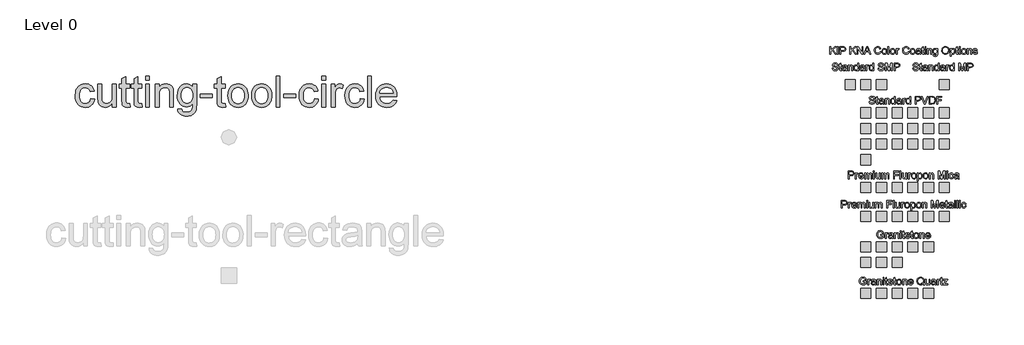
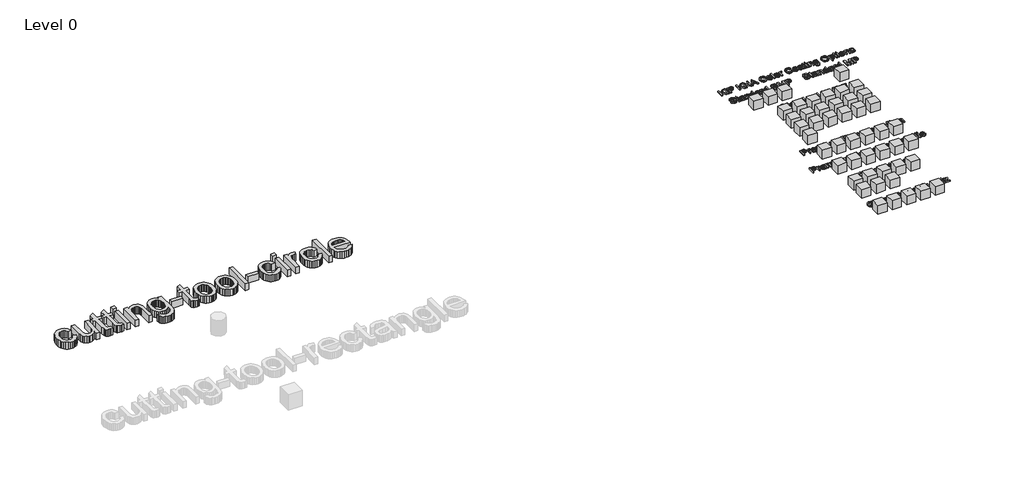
# One storey, part 4 of 4: 50 proxies.
"""IFC4 building model written with IfcOpenShell, lengths in millimetres."""

from ifc_helpers import new_model, si_unit, origin, origin_with_axes, place, context, project, spatial, polyline, outline, extrude, transform, mapped, element, save
from components import ks_color_sample_ks_color_sample_0243efec, r19_kna_color_range_kingspan_quadcore_4278cd54, r19_kna_color_range_kingspan_quadcore_c5814d20, r19_kna_color_range_kingspan_quadcore_91b79b7c

model = new_model("IFC4")

# Units and contexts
model_context = context("Model", 3, world=origin())
ifc_project = project(units=[si_unit("LENGTHUNIT", "METRE", prefix="MILLI")], contexts=[model_context])

# Site, building, storey
site = spatial("IfcSite", under=ifc_project)
building = spatial("IfcBuilding", under=site)
storey = spatial("IfcBuildingStorey", under=building, Name="Level 0", Elevation=0.0)

# Proxies
placement = place(None, origin())
element("IfcBuildingElementProxy", 1, Name="24\" Arial", ObjectType="24\" Arial", at=placement, inside=storey, context=model_context, shape_type="SweptSolid", body=[
    extrude(outline(polyline([(-2842.3369959, 13357.6936314), (-2766.1952224, 13348.1759097), (-2774.4767556, 13312.2474398), (-2787.4242032, 13280.4550891), (-2805.0375651, 13252.7988578), (-2827.3168414, 13229.2787458), (-2853.3232723, 13210.5081999), (-2882.1180983, 13197.1006671), (-2913.7013193, 13189.0561475), (-2948.0729353, 13186.3746409), (-2990.7772051, 13190.1157376), (-3029.0665162, 13201.3390276), (-3062.9408684, 13220.0445109), (-3092.4002619, 13246.2321875), (-3116.2456867, 13279.409441), (-3133.278133, 13319.0836549), (-3143.4976007, 13365.2548292), (-3146.90409, 13417.9229639), (-3141.085639, 13485.6809631), (-3133.8125753, 13516.1720627), (-3123.6302862, 13544.4045623), (-3110.4690616, 13569.8114883), (-3094.2591919, 13591.8258671), (-3075.0006769, 13610.4476985), (-3052.6935167, 13625.6769827), (-3028.3461808, 13637.5183669), (-3002.9671387, 13645.9764985), (-2976.5563905, 13651.0513774), (-2949.1139361, 13652.7430037), (-2915.3325304, 13650.4193412), (-2884.7763682, 13643.4483537), (-2857.4454496, 13631.830041), (-2833.3397746, 13615.5644034), (-2812.8683078, 13595.0232267), (-2796.4400138, 13570.578297), (-2784.0548925, 13542.2296142), (-2775.7129441, 13509.9771784), (-2851.8547176, 13500.4594567), (-2865.6665676, 13533.6785361), (-2887.1743879, 13557.4914296), (-2915.1884633, 13571.8237801), (-2948.5190785, 13576.6012302), (-2974.390737, 13574.2496838), (-2997.7249561, 13567.1950443), (-3018.5217357, 13555.437312), (-3036.7810757, 13538.9764867), (-3051.6478686, 13517.4314878), (-3062.2670063, 13490.4212346), (-3068.6384889, 13457.9457272), (-3070.7623165, 13420.0049655), (-3068.6849622, 13381.4925829), (-3062.4528993, 13348.6406422), (-3052.0661278, 13321.4491433), (-3037.5246478, 13299.9180864), (-3019.627799, 13283.5548549), (-2999.1749215, 13271.8668325), (-2976.1660152, 13264.854019), (-2950.6010801, 13262.5164145), (-2911.1731745, 13268.3534547), (-2894.1221389, 13275.649755), (-2878.8463815, 13285.8645755), (-2865.7734561, 13299.1094519), (-2855.3309167, 13315.49592), (-2847.5187633, 13335.0239798), (-2842.3369959, 13357.6936314)])), origin_with_axes(), (0.0, 0.0, 1.0), 152.4),
    extrude(outline(polyline([(-2414.0395199, 13195.8923626), (-2414.0395199, 13272.7777082), (-2441.5888627, 13234.9763663), (-2473.6739948, 13207.9754078), (-2510.2949162, 13191.7748326), (-2551.4516268, 13186.3746409), (-2588.5372806, 13190.1668582), (-2623.0576111, 13201.5435099), (-2652.0197407, 13218.6456661), (-2672.4307923, 13239.6143966), (-2686.1682851, 13265.0817379), (-2695.1097385, 13295.679726), (-2699.5711706, 13366.467781), (-2699.5711706, 13643.2252821), (-2623.4293971, 13643.2252821), (-2623.4293971, 13402.3079518), (-2622.2768604, 13354.1244857), (-2618.8192506, 13324.6790343), (-2607.7214384, 13298.7841391), (-2588.7045843, 13279.0980702), (-2563.0327608, 13266.6618284), (-2531.9700402, 13262.5164145), (-2499.1227468, 13266.7547749), (-2468.3946336, 13279.4698562), (-2443.0574175, 13299.4905325), (-2426.3828152, 13325.6456779), (-2417.1253437, 13361.4672593), (-2414.0395199, 13410.4872439), (-2414.0395199, 13643.2252821), (-2337.8977464, 13643.2252821), (-2337.8977464, 13195.8923626), (-2414.0395199, 13195.8923626)])), origin_with_axes(), (0.0, 0.0, 1.0), 152.4),
    extrude(outline(polyline([(-2071.4015391, 13259.393412), (-2061.8838174, 13193.6616466), (-2092.0356623, 13188.1963924), (-2118.8414331, 13186.3746409), (-2155.3879972, 13189.534822), (-2182.6399113, 13199.0153651), (-2201.8984263, 13213.626555), (-2214.4647932, 13232.1786766), (-2221.3800129, 13264.0407371), (-2223.6850861, 13318.5817438), (-2223.6850861, 13567.0835085), (-2280.7914162, 13567.0835085), (-2280.7914162, 13643.2252821), (-2223.6850861, 13643.2252821), (-2223.6850861, 13751.9355095), (-2147.5433126, 13796.6985443), (-2147.5433126, 13643.2252821), (-2071.4015391, 13643.2252821), (-2071.4015391, 13567.0835085), (-2147.5433126, 13567.0835085), (-2147.5433126, 13320.8124598), (-2143.5280237, 13281.5518578), (-2130.5155136, 13267.6470613), (-2119.5292372, 13263.7990762), (-2104.5648506, 13262.5164145), (-2071.4015391, 13259.393412)])), origin_with_axes(), (0.0, 0.0, 1.0), 152.4),
    extrude(outline(polyline([(-1833.4584968, 13259.393412), (-1823.9407751, 13193.6616466), (-1854.09262, 13188.1963924), (-1880.8983909, 13186.3746409), (-1917.444955, 13189.534822), (-1944.6968691, 13199.0153651), (-1963.955384, 13213.626555), (-1976.521751, 13232.1786766), (-1983.4369706, 13264.0407371), (-1985.7420438, 13318.5817438), (-1985.7420438, 13567.0835085), (-2042.848374, 13567.0835085), (-2042.848374, 13643.2252821), (-1985.7420438, 13643.2252821), (-1985.7420438, 13751.9355095), (-1909.6002703, 13796.6985443), (-1909.6002703, 13643.2252821), (-1833.4584968, 13643.2252821), (-1833.4584968, 13567.0835085), (-1909.6002703, 13567.0835085), (-1909.6002703, 13320.8124598), (-1905.5849815, 13281.5518578), (-1892.5724714, 13267.6470613), (-1881.586195, 13263.7990762), (-1866.6218083, 13262.5164145), (-1833.4584968, 13259.393412)])), origin_with_axes(), (0.0, 0.0, 1.0), 152.4),
    extrude(outline(polyline([(-1757.3167233, 13728.8847773), (-1757.3167233, 13805.0265508), (-1681.1749498, 13805.0265508), (-1681.1749498, 13728.8847773), (-1757.3167233, 13728.8847773)])), origin_with_axes(), (0.0, 0.0, 1.0), 152.4),
    extrude(outline(polyline([(-1757.3167233, 13195.8923626), (-1757.3167233, 13643.2252821), (-1681.1749498, 13643.2252821), (-1681.1749498, 13195.8923626), (-1757.3167233, 13195.8923626)])), origin_with_axes(), (0.0, 0.0, 1.0), 152.4),
    extrude(outline(polyline([(-1566.9622895, 13195.8923626), (-1566.9622895, 13643.2252821), (-1490.820516, 13643.2252821), (-1490.820516, 13580.7652335), (-1464.3679418, 13612.255508), (-1432.5988278, 13634.7485612), (-1395.513174, 13648.2443931), (-1353.1109803, 13652.7430037), (-1315.5791832, 13649.1180902), (-1281.2075672, 13638.2433496), (-1252.5428663, 13621.4758008), (-1232.1318148, 13600.1724628), (-1218.2827861, 13574.3891035), (-1209.3041541, 13544.1814907), (-1205.2888653, 13470.567862), (-1205.2888653, 13195.8923626), (-1281.4306388, 13195.8923626), (-1281.4306388, 13460.3065683), (-1283.6241762, 13499.6787061), (-1290.2047885, 13527.6741922), (-1302.3436015, 13547.7320471), (-1321.2117412, 13563.2912913), (-1345.3964207, 13573.2737455), (-1373.4848533, 13576.6012302), (-1396.6052954, 13574.7330056), (-1418.0805844, 13569.1283316), (-1437.9107204, 13559.7872082), (-1456.0957033, 13546.7096355), (-1471.2878088, 13528.4084695), (-1482.1393128, 13503.3965661), (-1488.6502152, 13471.6739254), (-1490.820516, 13433.2405473), (-1490.820516, 13195.8923626), (-1566.9622895, 13195.8923626)])), origin_with_axes(), (0.0, 0.0, 1.0), 152.4),
    extrude(outline(polyline([(-1119.6293701, 13157.8214759), (-1043.4875966, 13148.3037542), (-1035.0852329, 13124.50945), (-1018.8010059, 13108.1508658), (-986.790231, 13095.4357845), (-944.8899484, 13091.1974241), (-900.2012708, 13095.9934635), (-882.1510604, 13101.9885128), (-866.9636021, 13110.3815818), (-843.9128699, 13133.432314), (-829.7850018, 13164.2161951), (-825.6581771, 13196.970542), (-824.5799977, 13252.9986928), (-849.9172139, 13228.0146733), (-878.1915394, 13210.1689452), (-909.4029744, 13199.4615083), (-943.5515188, 13195.8923626), (-985.2984397, 13200.0470712), (-1022.0541335, 13212.511197), (-1053.8186001, 13233.2847399), (-1080.5918397, 13262.3677001), (-1101.8347625, 13297.2598165), (-1117.0082788, 13335.4608284), (-1126.1123885, 13376.9707356), (-1129.1470918, 13421.7895384), (-1123.7004268, 13483.264354), (-1107.360432, 13539.7944159), (-1095.2495029, 13565.2849937), (-1080.7033755, 13587.6990424), (-1063.7220498, 13607.0365619), (-1044.3055258, 13623.2975523), (-1022.7651742, 13636.1799373), (-999.4123659, 13645.3816409), (-974.2471007, 13650.902663), (-947.2693789, 13652.7430037), (-911.6615744, 13648.5790005), (-879.344076, 13636.0869908), (-850.3168838, 13615.2669746), (-824.5799977, 13586.1189519), (-824.5799977, 13643.2252821), (-748.4382242, 13643.2252821), (-748.4382242, 13257.0139816), (-753.6432282, 13167.8411087), (-760.1494833, 13134.6731498), (-769.2582404, 13109.1175094), (-781.1879238, 13088.5066229), (-796.1569577, 13070.1729256), (-814.1653423, 13054.1164175), (-835.2130774, 13040.3370988), (-859.0863862, 13029.2764652), (-885.5714916, 13021.3760126), (-914.6683937, 13016.635741), (-946.3770925, 13015.0556505), (-983.6811706, 13017.2817192), (-1017.2209154, 13023.9599253), (-1046.996327, 13035.0902688), (-1073.0074053, 13050.6727497), (-1094.0179618, 13070.7259572), (-1108.7918081, 13095.2684808), (-1117.3289442, 13124.3003203), (-1119.6293701, 13157.8214759)]), holes=[polyline([(-1053.0053183, 13426.9945424), (-1050.9744372, 13389.3465622), (-1044.8817941, 13357.1545417), (-1034.7273889, 13330.4184807), (-1020.5112216, 13309.1383793), (-1003.2278197, 13292.9052729), (-983.8717109, 13281.3101969), (-962.4428951, 13274.3531514), (-938.9413724, 13272.0341362), (-915.6722159, 13274.3392094), (-894.3456413, 13281.254429), (-874.9616485, 13292.7797951), (-857.5202376, 13308.9153077), (-843.1088827, 13329.9862795), (-832.8150577, 13356.3180231), (-826.6387627, 13387.9105388), (-824.5799977, 13424.7638264), (-826.6991779, 13460.0788494), (-833.0567186, 13490.7744313), (-843.6526197, 13516.8505721), (-858.4868812, 13538.3072719), (-876.3047255, 13555.0608786), (-895.8513746, 13567.0277406), (-917.1268286, 13574.2078578), (-940.1310876, 13576.6012302), (-962.7496186, 13574.2450364), (-983.6114607, 13567.176455), (-1002.716614, 13555.395486), (-1020.0650784, 13538.9021295), (-1034.4764333, 13517.7707425), (-1044.7702583, 13492.0756823), (-1050.9465533, 13461.816949), (-1053.0053183, 13426.9945424)])]), origin_with_axes(), (0.0, 0.0, 1.0), 152.4),
    extrude(outline(polyline([(-672.2964507, 13376.7290747), (-672.2964507, 13452.8708483), (-434.3534084, 13452.8708483), (-434.3534084, 13376.7290747), (-672.2964507, 13376.7290747)])), origin_with_axes(), (0.0, 0.0, 1.0), 152.4),
    extrude(outline(polyline([(-186.8926445, 13259.393412), (-177.3749228, 13193.6616466), (-207.5267677, 13188.1963924), (-234.3325386, 13186.3746409), (-270.8791027, 13189.534822), (-298.1310168, 13199.0153651), (-317.3895317, 13213.626555), (-329.9558987, 13232.1786766), (-336.8711183, 13264.0407371), (-339.1761915, 13318.5817438), (-339.1761915, 13567.0835085), (-396.2825217, 13567.0835085), (-396.2825217, 13643.2252821), (-339.1761915, 13643.2252821), (-339.1761915, 13751.9355095), (-263.034418, 13796.6985443), (-263.034418, 13643.2252821), (-186.8926445, 13643.2252821), (-186.8926445, 13567.0835085), (-263.034418, 13567.0835085), (-263.034418, 13320.8124598), (-259.0191292, 13281.5518578), (-246.0066191, 13267.6470613), (-235.0203427, 13263.7990762), (-220.055956, 13262.5164145), (-186.8926445, 13259.393412)])), origin_with_axes(), (0.0, 0.0, 1.0), 152.4),
    extrude(outline(polyline([(-129.7863144, 13419.5588223), (-125.6687844, 13477.4923763), (-113.3161944, 13527.413942), (-92.7285445, 13569.3235192), (-63.9058346, 13603.2211081), (-34.887937, 13624.8869374), (-2.8585728, 13640.3625298), (32.1822581, 13649.6478853), (70.2345555, 13652.7430037), (112.2417266, 13648.9740231), (150.2243142, 13637.6670813), (184.1823183, 13618.8221782), (214.1157389, 13592.439314), (238.5467266, 13559.4107749), (255.9974322, 13520.6288474), (266.4678555, 13476.0935315), (269.9579966, 13425.8048272), (268.4150847, 13385.0477866), (263.7863489, 13348.8823031), (256.0717894, 13317.3083767), (245.271406, 13290.3260075), (231.5199712, 13267.0196724), (214.9522574, 13246.4738484), (195.5682646, 13228.6885355), (173.3679929, 13213.6637336), (149.2158446, 13201.7247556), (123.9762223, 13193.1969141), (97.6491259, 13188.0802092), (70.2345555, 13186.3746409), (27.6139375, 13190.1296796), (-10.7218467, 13201.3947955), (-44.7727973, 13220.1699887), (-74.5389143, 13246.4552591), (-98.7096518, 13279.8044636), (-115.9744643, 13319.771459), (-126.3333519, 13366.3562452), (-129.7863144, 13419.5588223)]), holes=[polyline([(-53.6445409, 13419.7075367), (-51.4417088, 13382.7752446), (-44.8332126, 13350.797001), (-33.8190522, 13323.7728059), (-18.3992277, 13301.7026592), (0.3573762, 13284.5586771), (21.3818747, 13272.3129757), (44.6742678, 13264.9655548), (70.2345555, 13262.5164145), (95.6647182, 13264.9794967), (118.8641648, 13272.3687436), (139.8328954, 13284.6841549), (158.5709099, 13301.9257308), (173.9907344, 13324.2143017), (185.0048948, 13351.6706981), (191.613391, 13384.2949199), (193.8162231, 13422.0869672), (191.599449, 13457.8481334), (184.9491269, 13488.9898585), (173.8652567, 13515.5121425), (158.3478383, 13537.4149855), (139.5401139, 13554.5589675), (118.5853253, 13566.804669), (95.4834725, 13574.1520899), (70.2345555, 13576.6012302), (44.6742678, 13574.1613846), (21.3818747, 13566.8418476), (0.3573762, 13554.6426194), (-18.3992277, 13537.5636999), (-33.8190522, 13515.5586158), (-44.8332126, 13488.5808939), (-51.4417088, 13456.6305342), (-53.6445409, 13419.7075367)])]), origin_with_axes(), (0.0, 0.0, 1.0), 152.4),
    extrude(outline(polyline([(336.5820484, 13419.5588223), (340.6995784, 13477.4923763), (353.0521684, 13527.413942), (373.6398183, 13569.3235192), (402.4625282, 13603.2211081), (431.4804258, 13624.8869374), (463.50979, 13640.3625298), (498.5506208, 13649.6478853), (536.6029183, 13652.7430037), (578.6100894, 13648.9740231), (616.592677, 13637.6670813), (650.5506811, 13618.8221782), (680.4841017, 13592.439314), (704.9150894, 13559.4107749), (722.365795, 13520.6288474), (732.8362183, 13476.0935315), (736.3263594, 13425.8048272), (734.7834475, 13385.0477866), (730.1547117, 13348.8823031), (722.4401522, 13317.3083767), (711.6397688, 13290.3260075), (697.8883339, 13267.0196724), (681.3206202, 13246.4738484), (661.9366274, 13228.6885355), (639.7363557, 13213.6637336), (615.5842074, 13201.7247556), (590.3445851, 13193.1969141), (564.0174887, 13188.0802092), (536.6029183, 13186.3746409), (493.9823003, 13190.1296796), (455.646516, 13201.3947955), (421.5955654, 13220.1699887), (391.8294485, 13246.4552591), (367.658711, 13279.8044636), (350.3938985, 13319.771459), (340.0350109, 13366.3562452), (336.5820484, 13419.5588223)]), holes=[polyline([(412.7238219, 13419.7075367), (414.926654, 13382.7752446), (421.5351502, 13350.797001), (432.5493106, 13323.7728059), (447.9691351, 13301.7026592), (466.7257389, 13284.5586771), (487.7502374, 13272.3129757), (511.0426306, 13264.9655548), (536.6029183, 13262.5164145), (562.0330809, 13264.9794967), (585.2325276, 13272.3687436), (606.2012582, 13284.6841549), (624.9392727, 13301.9257308), (640.3590972, 13324.2143017), (651.3732576, 13351.6706981), (657.9817538, 13384.2949199), (660.1845859, 13422.0869672), (657.9678118, 13457.8481334), (651.3174897, 13488.9898585), (640.2336195, 13515.5121425), (624.7162011, 13537.4149855), (605.9084767, 13554.5589675), (584.9536881, 13566.804669), (561.8518353, 13574.1520899), (536.6029183, 13576.6012302), (511.0426306, 13574.1613846), (487.7502374, 13566.8418476), (466.7257389, 13554.6426194), (447.9691351, 13537.5636999), (432.5493106, 13515.5586158), (421.5351502, 13488.5808939), (414.926654, 13456.6305342), (412.7238219, 13419.7075367)])]), origin_with_axes(), (0.0, 0.0, 1.0), 152.4),
    extrude(outline(polyline([(821.9858546, 13195.8923626), (821.9858546, 13805.0265508), (898.1276281, 13805.0265508), (898.1276281, 13195.8923626), (821.9858546, 13195.8923626)])), origin_with_axes(), (0.0, 0.0, 1.0), 152.4),
    extrude(outline(polyline([(974.2694016, 13376.7290747), (974.2694016, 13452.8708483), (1212.2124439, 13452.8708483), (1212.2124439, 13376.7290747), (974.2694016, 13376.7290747)])), origin_with_axes(), (0.0, 0.0, 1.0), 152.4),
    extrude(outline(polyline([(1583.4035898, 13357.6936314), (1659.5453633, 13348.1759097), (1651.2638301, 13312.2474398), (1638.3163825, 13280.4550891), (1620.7030206, 13252.7988578), (1598.4237443, 13229.2787458), (1572.4173134, 13210.5081999), (1543.6224874, 13197.1006671), (1512.0392664, 13189.0561475), (1477.6676504, 13186.3746409), (1434.9633805, 13190.1157376), (1396.6740695, 13201.3390276), (1362.7997173, 13220.0445109), (1333.3403238, 13246.2321875), (1309.494899, 13279.409441), (1292.4624527, 13319.0836549), (1282.242985, 13365.2548292), (1278.8364957, 13417.9229639), (1284.6549466, 13485.6809631), (1291.9280103, 13516.1720627), (1302.1102995, 13544.4045623), (1315.271524, 13569.8114883), (1331.4813938, 13591.8258671), (1350.7399088, 13610.4476985), (1373.047069, 13625.6769827), (1397.3944049, 13637.5183669), (1422.773447, 13645.9764985), (1449.1841952, 13651.0513774), (1476.6266496, 13652.7430037), (1510.4080553, 13650.4193412), (1540.9642175, 13643.4483537), (1568.295136, 13631.830041), (1592.400811, 13615.5644034), (1612.8722779, 13595.0232267), (1629.3005719, 13570.578297), (1641.6856931, 13542.2296142), (1650.0276416, 13509.9771784), (1573.8858681, 13500.4594567), (1560.074018, 13533.6785361), (1538.5661977, 13557.4914296), (1510.5521224, 13571.8237801), (1477.2215072, 13576.6012302), (1451.3498486, 13574.2496838), (1428.0156296, 13567.1950443), (1407.21885, 13555.437312), (1388.9595099, 13538.9764867), (1374.0927171, 13517.4314878), (1363.4735794, 13490.4212346), (1357.1020968, 13457.9457272), (1354.9782692, 13420.0049655), (1357.0556235, 13381.4925829), (1363.2876864, 13348.6406422), (1373.6744579, 13321.4491433), (1388.2159379, 13299.9180864), (1406.1127867, 13283.5548549), (1426.5656642, 13271.8668325), (1449.5745705, 13264.854019), (1475.1395055, 13262.5164145), (1514.5674112, 13268.3534547), (1531.6184468, 13275.649755), (1546.8942042, 13285.8645755), (1559.9671296, 13299.1094519), (1570.4096689, 13315.49592), (1578.2218223, 13335.0239798), (1583.4035898, 13357.6936314)])), origin_with_axes(), (0.0, 0.0, 1.0), 152.4),
    extrude(outline(polyline([(1726.1694151, 13728.8847773), (1726.1694151, 13805.0265508), (1802.3111886, 13805.0265508), (1802.3111886, 13728.8847773), (1726.1694151, 13728.8847773)])), origin_with_axes(), (0.0, 0.0, 1.0), 152.4),
    extrude(outline(polyline([(1726.1694151, 13195.8923626), (1726.1694151, 13643.2252821), (1802.3111886, 13643.2252821), (1802.3111886, 13195.8923626), (1726.1694151, 13195.8923626)])), origin_with_axes(), (0.0, 0.0, 1.0), 152.4),
    extrude(outline(polyline([(1916.5238489, 13195.8923626), (1916.5238489, 13643.2252821), (1983.1479007, 13643.2252821), (1983.1479007, 13577.0473734), (2007.7601342, 13615.415689), (2030.4390804, 13638.020278), (2053.1923838, 13649.0623223), (2078.0276888, 13652.7430037), (2115.9498612, 13646.8687849), (2154.4668911, 13629.2461283), (2129.0367285, 13560.9862181), (2102.2681362, 13572.6974772), (2075.499544, 13576.6012302), (2052.7648299, 13572.8461916), (2032.4467248, 13561.5810757), (2016.0323727, 13543.6609903), (2005.0089177, 13519.9410433), (1995.7514462, 13477.4087245), (1992.6656224, 13431.0098313), (1992.6656224, 13195.8923626), (1916.5238489, 13195.8923626)])), origin_with_axes(), (0.0, 0.0, 1.0), 152.4),
    extrude(outline(polyline([(2487.5871503, 13357.6936314), (2563.7289238, 13348.1759097), (2555.4473906, 13312.2474398), (2542.499943, 13280.4550891), (2524.8865811, 13252.7988578), (2502.6073048, 13229.2787458), (2476.6008739, 13210.5081999), (2447.8060479, 13197.1006671), (2416.2228269, 13189.0561475), (2381.8512109, 13186.3746409), (2339.1469411, 13190.1157376), (2300.85763, 13201.3390276), (2266.9832778, 13220.0445109), (2237.5238843, 13246.2321875), (2213.6784595, 13279.409441), (2196.6460132, 13319.0836549), (2186.4265455, 13365.2548292), (2183.0200562, 13417.9229639), (2188.8385072, 13485.6809631), (2196.1115709, 13516.1720627), (2206.29386, 13544.4045623), (2219.4550846, 13569.8114883), (2235.6649543, 13591.8258671), (2254.9234693, 13610.4476985), (2277.2306295, 13625.6769827), (2301.5779654, 13637.5183669), (2326.9570075, 13645.9764985), (2353.3677557, 13651.0513774), (2380.8102101, 13652.7430037), (2414.5916158, 13650.4193412), (2445.147778, 13643.4483537), (2472.4786966, 13631.830041), (2496.5843716, 13615.5644034), (2517.0558384, 13595.0232267), (2533.4841324, 13570.578297), (2545.8692537, 13542.2296142), (2554.2112021, 13509.9771784), (2478.0694286, 13500.4594567), (2464.2575786, 13533.6785361), (2442.7497583, 13557.4914296), (2414.7356829, 13571.8237801), (2381.4050677, 13576.6012302), (2355.5334092, 13574.2496838), (2332.1991901, 13567.1950443), (2311.4024105, 13555.437312), (2293.1430704, 13538.9764867), (2278.2762776, 13517.4314878), (2267.6571399, 13490.4212346), (2261.2856573, 13457.9457272), (2259.1618297, 13420.0049655), (2261.239184, 13381.4925829), (2267.4712469, 13348.6406422), (2277.8580184, 13321.4491433), (2292.3994984, 13299.9180864), (2310.2963472, 13283.5548549), (2330.7492247, 13271.8668325), (2353.758131, 13264.854019), (2379.3230661, 13262.5164145), (2418.7509717, 13268.3534547), (2435.8020073, 13275.649755), (2451.0777647, 13285.8645755), (2464.1506901, 13299.1094519), (2474.5932295, 13315.49592), (2482.4053829, 13335.0239798), (2487.5871503, 13357.6936314)])), origin_with_axes(), (0.0, 0.0, 1.0), 152.4),
    extrude(outline(polyline([(2630.3529756, 13195.8923626), (2630.3529756, 13805.0265508), (2706.4947491, 13805.0265508), (2706.4947491, 13195.8923626), (2630.3529756, 13195.8923626)])), origin_with_axes(), (0.0, 0.0, 1.0), 152.4),
    extrude(outline(polyline([(3133.8999388, 13329.1404663), (3208.5545683, 13319.6227446), (3197.1082067, 13289.7218553), (3181.6558509, 13263.3715223), (3162.197501, 13240.5717456), (3138.7331568, 13221.3225253), (3111.5044794, 13206.0328259), (3080.7531296, 13195.111612), (3046.4791074, 13188.5588837), (3008.6824128, 13186.3746409), (2961.4377064, 13190.1436216), (2919.3422361, 13201.4505634), (2882.396002, 13220.2954664), (2850.5990041, 13246.6783307), (2825.0294217, 13279.8648789), (2806.7654343, 13319.1208335), (2795.8070418, 13364.4461946), (2792.1542443, 13415.8409623), (2795.8442204, 13468.9784769), (2806.9141487, 13515.8142187), (2825.3640291, 13556.3481877), (2851.1938617, 13590.580384), (2882.9072078, 13617.7765301), (2919.0076287, 13637.2023488), (2959.4951245, 13648.85784), (3004.3696951, 13652.7430037), (3047.7989477, 13648.8671347), (3087.0734916, 13637.2395274), (3122.193327, 13617.860182), (3153.1584537, 13590.7290984), (3178.4352547, 13556.5712593), (3196.4901125, 13516.1116475), (3207.3230271, 13469.3502629), (3210.9339987, 13416.2871055), (3210.4878555, 13395.7645181), (2868.2960179, 13395.7645181), (2872.7063293, 13365.380307), (2881.4758317, 13338.7697238), (2894.6045249, 13315.9327685), (2912.0924091, 13296.8694412), (2932.9728405, 13281.839992), (2956.2791756, 13271.1046711), (2982.0114144, 13264.6634786), (3010.1695568, 13262.5164145), (3050.6942312, 13266.4945247), (3084.8241863, 13278.4288554), (3112.5594222, 13299.0629786), (3133.8999388, 13329.1404663)]), holes=[polyline([(2868.2960179, 13471.9062916), (3134.7922252, 13471.9062916), (3124.4937529, 13512.1335372), (3115.6359513, 13527.9530317), (3104.3057729, 13540.9097739), (3083.5415246, 13556.524786), (3059.9145241, 13567.6783661), (3033.4247713, 13574.3705142), (3004.0722663, 13576.6012302), (2977.2990268, 13574.8213047), (2952.7472086, 13569.4815283), (2930.4168117, 13560.5819008), (2910.3078363, 13548.1224224), (2893.433399, 13532.6793612), (2880.8066169, 13514.8289857), (2872.4274898, 13494.5712959), (2868.2960179, 13471.9062916)])]), origin_with_axes(), (0.0, 0.0, 1.0), 152.4),
])
ks_color_sample_ks_color_sample_shape = ks_color_sample_ks_color_sample_0243efec(model_context)
element("IfcBuildingElementProxy", 2, Name="KS_Color Sample : KS_Color Sample", ObjectType="KS_Color Sample : KS_Color Sample", at=placement, inside=storey, context=model_context, shape_type="MappedRepresentation", body=[
    mapped(ks_color_sample_ks_color_sample_shape, transform((12786.5853815, 12769.2290821, 0.0), x_axis=(1.0, 0.0, 0.0), y_axis=(0.0, 1.0, 0.0), z_axis=(0.0, 0.0, 1.0))),
])
element("IfcBuildingElementProxy", 3, Name="KS_Color Sample : KS_Color Sample", ObjectType="KS_Color Sample : KS_Color Sample", at=placement, inside=storey, context=model_context, shape_type="MappedRepresentation", body=[
    mapped(ks_color_sample_ks_color_sample_shape, transform((12166.5853815, 13639.2290821, 0.0), x_axis=(1.0, 0.0, 0.0), y_axis=(0.0, 1.0, 0.0), z_axis=(0.0, 0.0, 1.0))),
])
element("IfcBuildingElementProxy", 4, Name="KS_Color Sample : KS_Color Sample", ObjectType="KS_Color Sample : KS_Color Sample", at=placement, inside=storey, context=model_context, shape_type="MappedRepresentation", body=[
    mapped(ks_color_sample_ks_color_sample_shape, transform((12476.5853815, 13639.2290821, 0.0), x_axis=(1.0, 0.0, 0.0), y_axis=(0.0, 1.0, 0.0), z_axis=(0.0, 0.0, 1.0))),
])
element("IfcBuildingElementProxy", 5, Name="KS_Color Sample : KS_Color Sample", ObjectType="KS_Color Sample : KS_Color Sample", at=placement, inside=storey, context=model_context, shape_type="MappedRepresentation", body=[
    mapped(ks_color_sample_ks_color_sample_shape, transform((12786.5853815, 13639.2290821, 0.0), x_axis=(1.0, 0.0, 0.0), y_axis=(0.0, 1.0, 0.0), z_axis=(0.0, 0.0, 1.0))),
])
element("IfcBuildingElementProxy", 6, Name="KS_Color Sample : KS_Color Sample", ObjectType="KS_Color Sample : KS_Color Sample", at=placement, inside=storey, context=model_context, shape_type="MappedRepresentation", body=[
    mapped(ks_color_sample_ks_color_sample_shape, transform((14026.5853815, 13639.2290821, 0.0), x_axis=(1.0, 0.0, 0.0), y_axis=(0.0, 1.0, 0.0), z_axis=(0.0, 0.0, 1.0))),
])
element("IfcBuildingElementProxy", 7, Name="KS_Color Sample : KS_Color Sample", ObjectType="KS_Color Sample : KS_Color Sample", at=placement, inside=storey, context=model_context, shape_type="MappedRepresentation", body=[
    mapped(ks_color_sample_ks_color_sample_shape, transform((12786.5853815, 13079.2290821, 0.0), x_axis=(1.0, 0.0, 0.0), y_axis=(0.0, 1.0, 0.0), z_axis=(0.0, 0.0, 1.0))),
])
element("IfcBuildingElementProxy", 8, Name="KS_Color Sample : KS_Color Sample", ObjectType="KS_Color Sample : KS_Color Sample", at=placement, inside=storey, context=model_context, shape_type="MappedRepresentation", body=[
    mapped(ks_color_sample_ks_color_sample_shape, transform((13096.5853815, 13079.2290821, 0.0), x_axis=(1.0, 0.0, 0.0), y_axis=(0.0, 1.0, 0.0), z_axis=(0.0, 0.0, 1.0))),
])
element("IfcBuildingElementProxy", 9, Name="KS_Color Sample : KS_Color Sample", ObjectType="KS_Color Sample : KS_Color Sample", at=placement, inside=storey, context=model_context, shape_type="MappedRepresentation", body=[
    mapped(ks_color_sample_ks_color_sample_shape, transform((13406.5853815, 13079.2290821, 0.0), x_axis=(1.0, 0.0, 0.0), y_axis=(0.0, 1.0, 0.0), z_axis=(0.0, 0.0, 1.0))),
])
element("IfcBuildingElementProxy", 10, Name="KS_Color Sample : KS_Color Sample", ObjectType="KS_Color Sample : KS_Color Sample", at=placement, inside=storey, context=model_context, shape_type="MappedRepresentation", body=[
    mapped(ks_color_sample_ks_color_sample_shape, transform((13716.5853815, 13079.2290821, 0.0), x_axis=(1.0, 0.0, 0.0), y_axis=(0.0, 1.0, 0.0), z_axis=(0.0, 0.0, 1.0))),
])
element("IfcBuildingElementProxy", 11, Name="KS_Color Sample : KS_Color Sample", ObjectType="KS_Color Sample : KS_Color Sample", at=placement, inside=storey, context=model_context, shape_type="MappedRepresentation", body=[
    mapped(ks_color_sample_ks_color_sample_shape, transform((12476.5853815, 11599.2290821, 0.0), x_axis=(1.0, 0.0, 0.0), y_axis=(0.0, 1.0, 0.0), z_axis=(0.0, 0.0, 1.0))),
])
element("IfcBuildingElementProxy", 12, Name="KS_Color Sample : KS_Color Sample", ObjectType="KS_Color Sample : KS_Color Sample", at=placement, inside=storey, context=model_context, shape_type="MappedRepresentation", body=[
    mapped(ks_color_sample_ks_color_sample_shape, transform((12786.5853815, 11599.2290821, 0.0), x_axis=(1.0, 0.0, 0.0), y_axis=(0.0, 1.0, 0.0), z_axis=(0.0, 0.0, 1.0))),
])
element("IfcBuildingElementProxy", 13, Name="KS_Color Sample : KS_Color Sample", ObjectType="KS_Color Sample : KS_Color Sample", at=placement, inside=storey, context=model_context, shape_type="MappedRepresentation", body=[
    mapped(ks_color_sample_ks_color_sample_shape, transform((13096.5853815, 11599.2290821, 0.0), x_axis=(1.0, 0.0, 0.0), y_axis=(0.0, 1.0, 0.0), z_axis=(0.0, 0.0, 1.0))),
])
element("IfcBuildingElementProxy", 14, Name="KS_Color Sample : KS_Color Sample", ObjectType="KS_Color Sample : KS_Color Sample", at=placement, inside=storey, context=model_context, shape_type="MappedRepresentation", body=[
    mapped(ks_color_sample_ks_color_sample_shape, transform((13406.5853815, 11599.2290821, 0.0), x_axis=(1.0, 0.0, 0.0), y_axis=(0.0, 1.0, 0.0), z_axis=(0.0, 0.0, 1.0))),
])
element("IfcBuildingElementProxy", 15, Name="KS_Color Sample : KS_Color Sample", ObjectType="KS_Color Sample : KS_Color Sample", at=placement, inside=storey, context=model_context, shape_type="MappedRepresentation", body=[
    mapped(ks_color_sample_ks_color_sample_shape, transform((14026.5853815, 13079.2290821, 0.0), x_axis=(1.0, 0.0, 0.0), y_axis=(0.0, 1.0, 0.0), z_axis=(0.0, 0.0, 1.0))),
])
element("IfcBuildingElementProxy", 16, Name="KS_Color Sample : KS_Color Sample", ObjectType="KS_Color Sample : KS_Color Sample", at=placement, inside=storey, context=model_context, shape_type="MappedRepresentation", body=[
    mapped(ks_color_sample_ks_color_sample_shape, transform((13716.5853815, 12769.2290821, 0.0), x_axis=(1.0, 0.0, 0.0), y_axis=(0.0, 1.0, 0.0), z_axis=(0.0, 0.0, 1.0))),
])
element("IfcBuildingElementProxy", 17, Name="KS_Color Sample : KS_Color Sample", ObjectType="KS_Color Sample : KS_Color Sample", at=placement, inside=storey, context=model_context, shape_type="MappedRepresentation", body=[
    mapped(ks_color_sample_ks_color_sample_shape, transform((14026.5853815, 12769.2290821, 0.0), x_axis=(1.0, 0.0, 0.0), y_axis=(0.0, 1.0, 0.0), z_axis=(0.0, 0.0, 1.0))),
])
element("IfcBuildingElementProxy", 18, Name="KS_Color Sample : KS_Color Sample", ObjectType="KS_Color Sample : KS_Color Sample", at=placement, inside=storey, context=model_context, shape_type="MappedRepresentation", body=[
    mapped(ks_color_sample_ks_color_sample_shape, transform((12476.5853815, 12769.2290821, 0.0), x_axis=(1.0, 0.0, 0.0), y_axis=(0.0, 1.0, 0.0), z_axis=(0.0, 0.0, 1.0))),
])
element("IfcBuildingElementProxy", 19, Name="KS_Color Sample : KS_Color Sample", ObjectType="KS_Color Sample : KS_Color Sample", at=placement, inside=storey, context=model_context, shape_type="MappedRepresentation", body=[
    mapped(ks_color_sample_ks_color_sample_shape, transform((13096.5853815, 12769.2290821, 0.0), x_axis=(1.0, 0.0, 0.0), y_axis=(0.0, 1.0, 0.0), z_axis=(0.0, 0.0, 1.0))),
])
element("IfcBuildingElementProxy", 20, Name="KS_Color Sample : KS_Color Sample", ObjectType="KS_Color Sample : KS_Color Sample", at=placement, inside=storey, context=model_context, shape_type="MappedRepresentation", body=[
    mapped(ks_color_sample_ks_color_sample_shape, transform((13406.5853815, 12769.2290821, 0.0), x_axis=(1.0, 0.0, 0.0), y_axis=(0.0, 1.0, 0.0), z_axis=(0.0, 0.0, 1.0))),
])
element("IfcBuildingElementProxy", 21, Name="KS_Color Sample : KS_Color Sample", ObjectType="KS_Color Sample : KS_Color Sample", at=placement, inside=storey, context=model_context, shape_type="MappedRepresentation", body=[
    mapped(ks_color_sample_ks_color_sample_shape, transform((12476.5853815, 12459.2290821, 0.0), x_axis=(1.0, 0.0, 0.0), y_axis=(0.0, 1.0, 0.0), z_axis=(0.0, 0.0, 1.0))),
])
element("IfcBuildingElementProxy", 22, Name="KS_Color Sample : KS_Color Sample", ObjectType="KS_Color Sample : KS_Color Sample", at=placement, inside=storey, context=model_context, shape_type="MappedRepresentation", body=[
    mapped(ks_color_sample_ks_color_sample_shape, transform((12786.5853815, 12459.2290821, 0.0), x_axis=(1.0, 0.0, 0.0), y_axis=(0.0, 1.0, 0.0), z_axis=(0.0, 0.0, 1.0))),
])
element("IfcBuildingElementProxy", 23, Name="KS_Color Sample : KS_Color Sample", ObjectType="KS_Color Sample : KS_Color Sample", at=placement, inside=storey, context=model_context, shape_type="MappedRepresentation", body=[
    mapped(ks_color_sample_ks_color_sample_shape, transform((13096.5853815, 12459.2290821, 0.0), x_axis=(1.0, 0.0, 0.0), y_axis=(0.0, 1.0, 0.0), z_axis=(0.0, 0.0, 1.0))),
])
element("IfcBuildingElementProxy", 24, Name="KS_Color Sample : KS_Color Sample", ObjectType="KS_Color Sample : KS_Color Sample", at=placement, inside=storey, context=model_context, shape_type="MappedRepresentation", body=[
    mapped(ks_color_sample_ks_color_sample_shape, transform((13406.5853815, 12459.2290821, 0.0), x_axis=(1.0, 0.0, 0.0), y_axis=(0.0, 1.0, 0.0), z_axis=(0.0, 0.0, 1.0))),
])
element("IfcBuildingElementProxy", 25, Name="KS_Color Sample : KS_Color Sample", ObjectType="KS_Color Sample : KS_Color Sample", at=placement, inside=storey, context=model_context, shape_type="MappedRepresentation", body=[
    mapped(ks_color_sample_ks_color_sample_shape, transform((13716.5853815, 12459.2290821, 0.0), x_axis=(1.0, 0.0, 0.0), y_axis=(0.0, 1.0, 0.0), z_axis=(0.0, 0.0, 1.0))),
])
element("IfcBuildingElementProxy", 26, Name="KS_Color Sample : KS_Color Sample", ObjectType="KS_Color Sample : KS_Color Sample", at=placement, inside=storey, context=model_context, shape_type="MappedRepresentation", body=[
    mapped(ks_color_sample_ks_color_sample_shape, transform((14026.5853815, 12459.2290821, 0.0), x_axis=(1.0, 0.0, 0.0), y_axis=(0.0, 1.0, 0.0), z_axis=(0.0, 0.0, 1.0))),
])
element("IfcBuildingElementProxy", 27, Name="KS_Color Sample : KS_Color Sample", ObjectType="KS_Color Sample : KS_Color Sample", at=placement, inside=storey, context=model_context, shape_type="MappedRepresentation", body=[
    mapped(ks_color_sample_ks_color_sample_shape, transform((12476.5853815, 12149.2290821, 0.0), x_axis=(1.0, 0.0, 0.0), y_axis=(0.0, 1.0, 0.0), z_axis=(0.0, 0.0, 1.0))),
])
element("IfcBuildingElementProxy", 28, Name="KS_Color Sample : KS_Color Sample", ObjectType="KS_Color Sample : KS_Color Sample", at=placement, inside=storey, context=model_context, shape_type="MappedRepresentation", body=[
    mapped(ks_color_sample_ks_color_sample_shape, transform((13716.5853815, 11599.2290821, 0.0), x_axis=(1.0, 0.0, 0.0), y_axis=(0.0, 1.0, 0.0), z_axis=(0.0, 0.0, 1.0))),
])
element("IfcBuildingElementProxy", 29, Name="KS_Color Sample : KS_Color Sample", ObjectType="KS_Color Sample : KS_Color Sample", at=placement, inside=storey, context=model_context, shape_type="MappedRepresentation", body=[
    mapped(ks_color_sample_ks_color_sample_shape, transform((14026.5853815, 11599.2290821, 0.0), x_axis=(1.0, 0.0, 0.0), y_axis=(0.0, 1.0, 0.0), z_axis=(0.0, 0.0, 1.0))),
])
element("IfcBuildingElementProxy", 30, Name="KS_Color Sample : KS_Color Sample", ObjectType="KS_Color Sample : KS_Color Sample", at=placement, inside=storey, context=model_context, shape_type="MappedRepresentation", body=[
    mapped(ks_color_sample_ks_color_sample_shape, transform((12476.5853815, 11029.2290821, 0.0), x_axis=(1.0, 0.0, 0.0), y_axis=(0.0, 1.0, 0.0), z_axis=(0.0, 0.0, 1.0))),
])
element("IfcBuildingElementProxy", 31, Name="KS_Color Sample : KS_Color Sample", ObjectType="KS_Color Sample : KS_Color Sample", at=placement, inside=storey, context=model_context, shape_type="MappedRepresentation", body=[
    mapped(ks_color_sample_ks_color_sample_shape, transform((12786.5853815, 11029.2290821, 0.0), x_axis=(1.0, 0.0, 0.0), y_axis=(0.0, 1.0, 0.0), z_axis=(0.0, 0.0, 1.0))),
])
element("IfcBuildingElementProxy", 32, Name="KS_Color Sample : KS_Color Sample", ObjectType="KS_Color Sample : KS_Color Sample", at=placement, inside=storey, context=model_context, shape_type="MappedRepresentation", body=[
    mapped(ks_color_sample_ks_color_sample_shape, transform((13096.5853815, 11029.2290821, 0.0), x_axis=(1.0, 0.0, 0.0), y_axis=(0.0, 1.0, 0.0), z_axis=(0.0, 0.0, 1.0))),
])
element("IfcBuildingElementProxy", 33, Name="KS_Color Sample : KS_Color Sample", ObjectType="KS_Color Sample : KS_Color Sample", at=placement, inside=storey, context=model_context, shape_type="MappedRepresentation", body=[
    mapped(ks_color_sample_ks_color_sample_shape, transform((13406.5853815, 11029.2290821, 0.0), x_axis=(1.0, 0.0, 0.0), y_axis=(0.0, 1.0, 0.0), z_axis=(0.0, 0.0, 1.0))),
])
element("IfcBuildingElementProxy", 34, Name="KS_Color Sample : KS_Color Sample", ObjectType="KS_Color Sample : KS_Color Sample", at=placement, inside=storey, context=model_context, shape_type="MappedRepresentation", body=[
    mapped(ks_color_sample_ks_color_sample_shape, transform((13716.5853815, 11029.2290821, 0.0), x_axis=(1.0, 0.0, 0.0), y_axis=(0.0, 1.0, 0.0), z_axis=(0.0, 0.0, 1.0))),
])
element("IfcBuildingElementProxy", 35, Name="KS_Color Sample : KS_Color Sample", ObjectType="KS_Color Sample : KS_Color Sample", at=placement, inside=storey, context=model_context, shape_type="MappedRepresentation", body=[
    mapped(ks_color_sample_ks_color_sample_shape, transform((14026.5853815, 11029.2290821, 0.0), x_axis=(1.0, 0.0, 0.0), y_axis=(0.0, 1.0, 0.0), z_axis=(0.0, 0.0, 1.0))),
])
element("IfcBuildingElementProxy", 36, Name="KS_Color Sample : KS_Color Sample", ObjectType="KS_Color Sample : KS_Color Sample", at=placement, inside=storey, context=model_context, shape_type="MappedRepresentation", body=[
    mapped(ks_color_sample_ks_color_sample_shape, transform((12476.5853815, 10429.2290821, 0.0), x_axis=(1.0, 0.0, 0.0), y_axis=(0.0, 1.0, 0.0), z_axis=(0.0, 0.0, 1.0))),
])
element("IfcBuildingElementProxy", 37, Name="KS_Color Sample : KS_Color Sample", ObjectType="KS_Color Sample : KS_Color Sample", at=placement, inside=storey, context=model_context, shape_type="MappedRepresentation", body=[
    mapped(ks_color_sample_ks_color_sample_shape, transform((12786.5853815, 10429.2290821, 0.0), x_axis=(1.0, 0.0, 0.0), y_axis=(0.0, 1.0, 0.0), z_axis=(0.0, 0.0, 1.0))),
])
element("IfcBuildingElementProxy", 38, Name="KS_Color Sample : KS_Color Sample", ObjectType="KS_Color Sample : KS_Color Sample", at=placement, inside=storey, context=model_context, shape_type="MappedRepresentation", body=[
    mapped(ks_color_sample_ks_color_sample_shape, transform((13096.5853815, 10429.2290821, 0.0), x_axis=(1.0, 0.0, 0.0), y_axis=(0.0, 1.0, 0.0), z_axis=(0.0, 0.0, 1.0))),
])
element("IfcBuildingElementProxy", 39, Name="KS_Color Sample : KS_Color Sample", ObjectType="KS_Color Sample : KS_Color Sample", at=placement, inside=storey, context=model_context, shape_type="MappedRepresentation", body=[
    mapped(ks_color_sample_ks_color_sample_shape, transform((13406.5853815, 10429.2290821, 0.0), x_axis=(1.0, 0.0, 0.0), y_axis=(0.0, 1.0, 0.0), z_axis=(0.0, 0.0, 1.0))),
])
element("IfcBuildingElementProxy", 40, Name="KS_Color Sample : KS_Color Sample", ObjectType="KS_Color Sample : KS_Color Sample", at=placement, inside=storey, context=model_context, shape_type="MappedRepresentation", body=[
    mapped(ks_color_sample_ks_color_sample_shape, transform((13716.5853815, 10429.2290821, 0.0), x_axis=(1.0, 0.0, 0.0), y_axis=(0.0, 1.0, 0.0), z_axis=(0.0, 0.0, 1.0))),
])
element("IfcBuildingElementProxy", 41, Name="KS_Color Sample : KS_Color Sample", ObjectType="KS_Color Sample : KS_Color Sample", at=placement, inside=storey, context=model_context, shape_type="MappedRepresentation", body=[
    mapped(ks_color_sample_ks_color_sample_shape, transform((12476.5853815, 10119.2290821, 0.0), x_axis=(1.0, 0.0, 0.0), y_axis=(0.0, 1.0, 0.0), z_axis=(0.0, 0.0, 1.0))),
])
element("IfcBuildingElementProxy", 42, Name="KS_Color Sample : KS_Color Sample", ObjectType="KS_Color Sample : KS_Color Sample", at=placement, inside=storey, context=model_context, shape_type="MappedRepresentation", body=[
    mapped(ks_color_sample_ks_color_sample_shape, transform((12786.5853815, 10119.2290821, 0.0), x_axis=(1.0, 0.0, 0.0), y_axis=(0.0, 1.0, 0.0), z_axis=(0.0, 0.0, 1.0))),
])
element("IfcBuildingElementProxy", 43, Name="KS_Color Sample : KS_Color Sample", ObjectType="KS_Color Sample : KS_Color Sample", at=placement, inside=storey, context=model_context, shape_type="MappedRepresentation", body=[
    mapped(ks_color_sample_ks_color_sample_shape, transform((13096.5853815, 10119.2290821, 0.0), x_axis=(1.0, 0.0, 0.0), y_axis=(0.0, 1.0, 0.0), z_axis=(0.0, 0.0, 1.0))),
])
element("IfcBuildingElementProxy", 44, Name="KS_Color Sample : KS_Color Sample", ObjectType="KS_Color Sample : KS_Color Sample", at=placement, inside=storey, context=model_context, shape_type="MappedRepresentation", body=[
    mapped(ks_color_sample_ks_color_sample_shape, transform((12476.5853815, 9509.2290821, 0.0), x_axis=(1.0, 0.0, 0.0), y_axis=(0.0, 1.0, 0.0), z_axis=(0.0, 0.0, 1.0))),
])
element("IfcBuildingElementProxy", 45, Name="KS_Color Sample : KS_Color Sample", ObjectType="KS_Color Sample : KS_Color Sample", at=placement, inside=storey, context=model_context, shape_type="MappedRepresentation", body=[
    mapped(ks_color_sample_ks_color_sample_shape, transform((12786.5853815, 9509.2290821, 0.0), x_axis=(1.0, 0.0, 0.0), y_axis=(0.0, 1.0, 0.0), z_axis=(0.0, 0.0, 1.0))),
])
element("IfcBuildingElementProxy", 46, Name="KS_Color Sample : KS_Color Sample", ObjectType="KS_Color Sample : KS_Color Sample", at=placement, inside=storey, context=model_context, shape_type="MappedRepresentation", body=[
    mapped(ks_color_sample_ks_color_sample_shape, transform((13096.5853815, 9509.2290821, 0.0), x_axis=(1.0, 0.0, 0.0), y_axis=(0.0, 1.0, 0.0), z_axis=(0.0, 0.0, 1.0))),
])
element("IfcBuildingElementProxy", 47, Name="KS_Color Sample : KS_Color Sample", ObjectType="KS_Color Sample : KS_Color Sample", at=placement, inside=storey, context=model_context, shape_type="MappedRepresentation", body=[
    mapped(ks_color_sample_ks_color_sample_shape, transform((13406.5853815, 9509.2290821, 0.0), x_axis=(1.0, 0.0, 0.0), y_axis=(0.0, 1.0, 0.0), z_axis=(0.0, 0.0, 1.0))),
])
element("IfcBuildingElementProxy", 48, Name="KS_Color Sample : KS_Color Sample", ObjectType="KS_Color Sample : KS_Color Sample", at=placement, inside=storey, context=model_context, shape_type="MappedRepresentation", body=[
    mapped(ks_color_sample_ks_color_sample_shape, transform((13716.5853815, 9509.2290821, 0.0), x_axis=(1.0, 0.0, 0.0), y_axis=(0.0, 1.0, 0.0), z_axis=(0.0, 0.0, 1.0))),
])
element("IfcBuildingElementProxy", 49, Name="KS_Color Sample : KS_Color Sample", ObjectType="KS_Color Sample : KS_Color Sample", at=placement, inside=storey, context=model_context, shape_type="MappedRepresentation", body=[
    mapped(ks_color_sample_ks_color_sample_shape, transform((12476.5853815, 13079.2290821, 0.0), x_axis=(1.0, 0.0, 0.0), y_axis=(0.0, 1.0, 0.0), z_axis=(0.0, 0.0, 1.0))),
])
r19_kna_color_range_kingspan_quadcore_shape = r19_kna_color_range_kingspan_quadcore_4278cd54(model_context)
r19_kna_color_range_kingspan_quadcore_2_shape = r19_kna_color_range_kingspan_quadcore_c5814d20(model_context)
r19_kna_color_range_kingspan_quadcore_3_shape = r19_kna_color_range_kingspan_quadcore_91b79b7c(model_context)
element("IfcBuildingElementProxy", 50, Name="R19_KNA_Color Range : Kingspan Quadcore", ObjectType="R19_KNA_Color Range : Kingspan Quadcore", at=placement, inside=storey, context=model_context, shape_type="MappedRepresentation", body=[
    mapped(r19_kna_color_range_kingspan_quadcore_shape, transform((13221.5853815, 13539.2290821, 0.0), x_axis=(1.0, 0.0, 0.0), y_axis=(0.0, 1.0, 0.0), z_axis=(0.0, 0.0, 1.0))),
    mapped(r19_kna_color_range_kingspan_quadcore_2_shape, transform((13221.5853815, 13539.2290821, 0.0), x_axis=(1.0, 0.0, 0.0), y_axis=(0.0, 1.0, 0.0), z_axis=(0.0, 0.0, 1.0))),
    mapped(r19_kna_color_range_kingspan_quadcore_3_shape, transform((13221.5853815, 13539.2290821, 0.0), x_axis=(1.0, 0.0, 0.0), y_axis=(0.0, 1.0, 0.0), z_axis=(0.0, 0.0, 1.0))),
])

save(model, "model.ifc")
